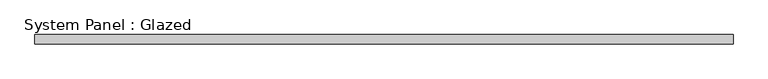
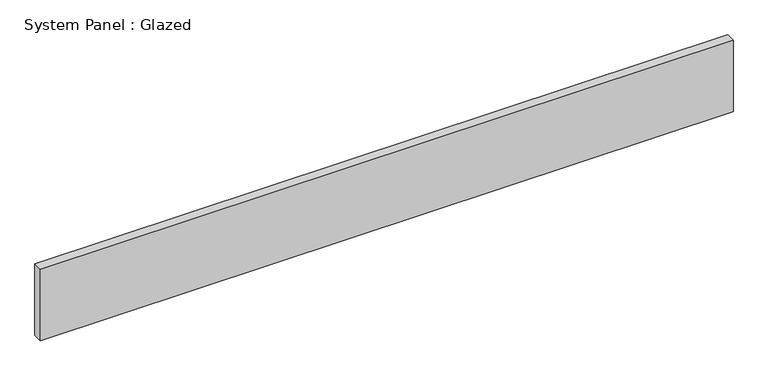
"""IFC4 building model written with IfcOpenShell, lengths in millimetres: plate geometry, System Panel : Glazed."""

from ifc_helpers import new_model, si_unit, origin, origin_with_axes, place, context, project, spatial, polyline, outline, extrude, source, transform, mapped, element, save


def system_panel_glazed_ac56bfe5(model_context):
    return source(origin(), model_context, "Body", "SweptSolid", [
        extrude(outline(polyline([(915.0000002, 24.5), (-915.0000002, 24.5), (-915.0000002, 49.5), (915.0000002, 49.5), (915.0000002, 24.5)])), origin_with_axes(), (0.0, 0.0, 1.0), 200.0),
    ])


if __name__ == "__main__":
    model = new_model("IFC4")
    model_context = context("Model", 3, world=origin())
    ifc_project = project(units=[si_unit("LENGTHUNIT", "METRE", prefix="MILLI")], contexts=[model_context])
    site = spatial("IfcSite", under=ifc_project)
    building = spatial("IfcBuilding", under=site)
    placement = place(None, origin())
    system_panel_glazed_shape = system_panel_glazed_ac56bfe5(model_context)
    element("IfcPlate", 1, ObjectType="System Panel : Glazed", at=placement, inside=building, context=model_context, shape_type="MappedRepresentation", body=[
        mapped(system_panel_glazed_shape, transform((0.0, 0.0, 0.0), x_axis=(1.0, 0.0, 0.0), y_axis=(0.0, 1.0, 0.0), z_axis=(0.0, 0.0, 1.0))),
    ])
    save(model, "model.ifc")
